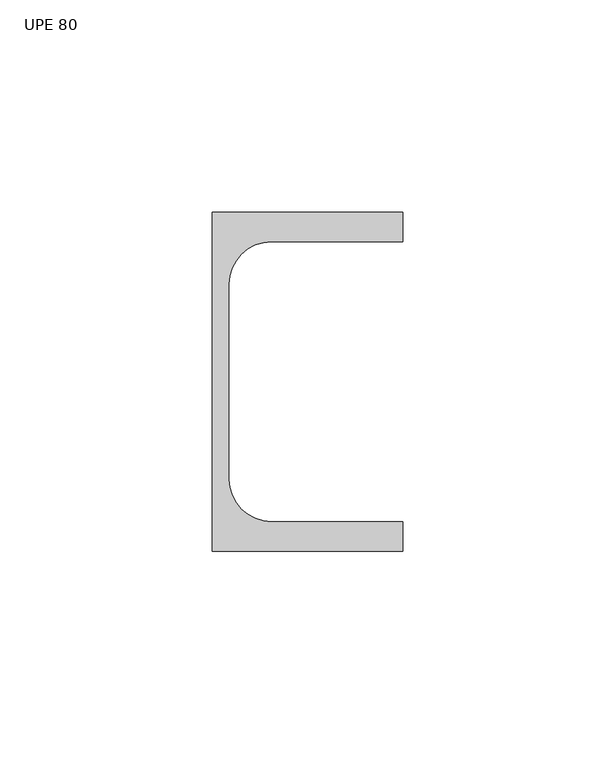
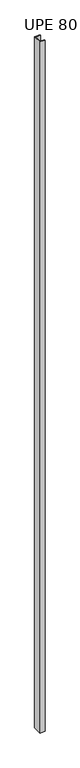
"""IFC4 building model written with IfcOpenShell, lengths in millimetres: column geometry, UPE - Canales de ala paralela - Pilar : UPE 80."""

import ifcopenshell
import ifcopenshell.guid

model = None  # the IFC model being written
_history = None  # IfcOwnerHistory: only IFC2X3 demands one
_inside = {}  # id of a spatial element -> (the spatial element, [elements in it])
_under = {}  # id of a project, library or spatial element -> (it, [spatial elements below it])
_declared = {}  # id of a project -> (the project, [libraries it declares])
_typed = {}  # id of a type object -> (the type object, [elements of that type])
_made_of = {}  # id of a material, layer set ... -> (it, [elements and type objects made of it])


def new_model(schema):
    """Start an empty IFC model of exactly this schema.

    Asked for "IFC4X3", IfcOpenShell would pick the latest addendum, in which some entities
    have other attributes; the version numbers below select the first issue.
    IFC2X3 requires an IfcOwnerHistory on every rooted entity: one is made here for all.
    """
    global model, _history
    if schema == "IFC4X3":
        model = ifcopenshell.file(schema_version=(4, 3, 0, 0))
    else:
        model = ifcopenshell.file(schema=schema)
    _inside.clear()
    _under.clear()
    _declared.clear()
    _typed.clear()
    _made_of.clear()
    _history = None
    if model.schema == "IFC2X3":
        org = make("IfcOrganization", Name="unknown")
        user = make(
            "IfcPersonAndOrganization",
            ThePerson=make("IfcPerson", FamilyName="unknown"),
            TheOrganization=org,
        )
        app = make(
            "IfcApplication",
            ApplicationDeveloper=org,
            Version="unknown",
            ApplicationFullName="unknown",
            ApplicationIdentifier="unknown",
        )
        _history = make(
            "IfcOwnerHistory",
            OwningUser=user,
            OwningApplication=app,
            ChangeAction="ADDED",
            CreationDate=0,
        )
    return model


def make(cls, **values):
    """One entity of the class cls with the attributes given. An attribute that is None is left unset."""
    return model.create_entity(
        cls, **{name: value for name, value in values.items() if value is not None}
    )


def rooted(cls, **values):
    """An entity with a GlobalId (a new one), such as an element, a storey or a relation."""
    return make(cls, GlobalId=ifcopenshell.guid.new(), OwnerHistory=_history, **values)


def si_unit(unit_type, name, prefix=None):
    """IfcSIUnit, for example si_unit("LENGTHUNIT", "METRE", prefix="MILLI")."""
    return make("IfcSIUnit", UnitType=unit_type, Prefix=prefix, Name=name)


def assignment(units):
    """IfcUnitAssignment: the units of a project."""
    return None if units is None else make("IfcUnitAssignment", Units=units)


def point(xyz):
    """IfcCartesianPoint."""
    return None if xyz is None else make("IfcCartesianPoint", Coordinates=xyz)


def direction(xyz):
    """IfcDirection."""
    return None if xyz is None else make("IfcDirection", DirectionRatios=xyz)


def frame(location, z_axis=None, x_axis=None):
    """IfcAxis2Placement3D, a coordinate frame: its origin and axes. An axis left out is left unset."""
    return make(
        "IfcAxis2Placement3D",
        Location=point(location),
        Axis=direction(z_axis),
        RefDirection=direction(x_axis),
    )


def frame_2d(location, x_axis=None):
    """IfcAxis2Placement2D, a coordinate frame in the plane: its origin and x axis."""
    return make(
        "IfcAxis2Placement2D", Location=point(location), RefDirection=direction(x_axis)
    )


def origin():
    """The frame at (0, 0, 0) with its axes left unset."""
    return frame((0.0, 0.0, 0.0))


def origin_with_axes():
    """The frame at (0, 0, 0) with the z axis (0, 0, 1) and the x axis (1, 0, 0) written out."""
    return frame((0.0, 0.0, 0.0), z_axis=(0.0, 0.0, 1.0), x_axis=(1.0, 0.0, 0.0))


def place(relative_to, where):
    """IfcLocalPlacement: puts the frame where relative to a parent placement (None: the world)."""
    return make(
        "IfcLocalPlacement", PlacementRelTo=relative_to, RelativePlacement=where
    )


def context(
    kind, dimensions, precision=None, world=None, true_north=None, identifier=None
):
    """IfcGeometricRepresentationContext, for example the 3D "Model" context."""
    return make(
        "IfcGeometricRepresentationContext",
        ContextIdentifier=identifier,
        ContextType=kind,
        CoordinateSpaceDimension=dimensions,
        Precision=precision,
        WorldCoordinateSystem=world,
        TrueNorth=true_north,
    )


def project(units=None, contexts=None):
    """IfcProject with its units and contexts."""
    return rooted(
        "IfcProject",
        Name="project",
        RepresentationContexts=contexts,
        UnitsInContext=assignment(units),
    )


def spatial(cls, under=None, at=None, **own):
    """A site, building, storey or space (cls), placed at a placement, below another one or the project."""
    s = rooted(cls, ObjectPlacement=at, **own)
    if under is not None:
        _under.setdefault(under.id(), (under, []))[1].append(s)
    return s


def polyline(points):
    """IfcPolyline through the points."""
    return make("IfcPolyline", Points=[point(p) for p in points])


def circle_curve(where, radius):
    """IfcCircle in the frame where."""
    return make("IfcCircle", Position=where, Radius=radius)


def trimmed(basis, trim1, trim2, sense, master):
    """IfcTrimmedCurve: the piece of a basis curve between two trims."""
    return make(
        "IfcTrimmedCurve",
        BasisCurve=basis,
        Trim1=trim1,
        Trim2=trim2,
        SenseAgreement=sense,
        MasterRepresentation=master,
    )


def segment(curve, same_sense, transition):
    """IfcCompositeCurveSegment."""
    return make(
        "IfcCompositeCurveSegment",
        Transition=transition,
        SameSense=same_sense,
        ParentCurve=curve,
    )


def composite_curve(segments, self_intersect=None):
    """IfcCompositeCurve: segments joined end to end."""
    return make("IfcCompositeCurve", Segments=segments, SelfIntersect=self_intersect)


def outline(outer, holes=None, kind="AREA"):
    """IfcArbitraryClosedProfileDef: a profile drawn as a closed curve; with holes, ...WithVoids."""
    if holes is None:
        return make("IfcArbitraryClosedProfileDef", ProfileType=kind, OuterCurve=outer)
    return make(
        "IfcArbitraryProfileDefWithVoids",
        ProfileType=kind,
        OuterCurve=outer,
        InnerCurves=holes,
    )


def extrude(swept, where, along, depth):
    """IfcExtrudedAreaSolid: the profile swept, set in the frame where, extruded along a direction by depth."""
    return make(
        "IfcExtrudedAreaSolid",
        SweptArea=swept,
        Position=where,
        ExtrudedDirection=direction(along),
        Depth=depth,
    )


def shape(context_of_items, identifier, shape_type, items):
    """IfcShapeRepresentation: the items that make up one representation, for example the "Body"."""
    return make(
        "IfcShapeRepresentation",
        ContextOfItems=context_of_items,
        RepresentationIdentifier=identifier,
        RepresentationType=shape_type,
        Items=items,
    )


def source(mapping_origin, context_of_items, identifier, shape_type, items):
    """IfcRepresentationMap: a shape defined once, which mapped items show again and again."""
    return make(
        "IfcRepresentationMap",
        MappingOrigin=mapping_origin,
        MappedRepresentation=shape(context_of_items, identifier, shape_type, items),
    )


def transform(
    local_origin,
    x_axis=None,
    y_axis=None,
    z_axis=None,
    scale=None,
    scale2=None,
    scale3=None,
    uniform=True,
):
    """IfcCartesianTransformationOperator3D, or its non-uniform kind. x_axis, y_axis, z_axis: its Axis1, 2, 3."""
    if uniform:
        return make(
            "IfcCartesianTransformationOperator3D",
            Axis1=direction(x_axis),
            Axis2=direction(y_axis),
            LocalOrigin=point(local_origin),
            Scale=scale,
            Axis3=direction(z_axis),
        )
    return make(
        "IfcCartesianTransformationOperator3DnonUniform",
        Axis1=direction(x_axis),
        Axis2=direction(y_axis),
        LocalOrigin=point(local_origin),
        Scale=scale,
        Axis3=direction(z_axis),
        Scale2=scale2,
        Scale3=scale3,
    )


def mapped(mapping_source, mapping_target):
    """IfcMappedItem: shows the shape of a source again, moved by a transform."""
    return make(
        "IfcMappedItem", MappingSource=mapping_source, MappingTarget=mapping_target
    )


def made_of(thing, what):
    """Note that an element or type object is made of a material, layer set ...; save() writes the relation."""
    if what is not None:
        _made_of.setdefault(what.id(), (what, []))[1].append(thing)
    return thing


def element(
    cls,
    number,
    at=None,
    inside=None,
    cuts=None,
    type_object=None,
    material=None,
    context=None,
    identifier="Body",
    shape_type=None,
    held_by="IfcProductDefinitionShape",
    body=None,
    shapes=None,
    **own,
):
    """One element of the class cls, such as IfcWall. Its Tag is "e" and its number.

    at: its placement. inside: the storey or other place that contains it. cuts: it is an
    opening in that element (IfcRelVoidsElement). A single representation is given by context,
    identifier, shape_type and body (its items); several are given by shapes. held_by: the class
    of the entity that holds the representations. save() writes the other relations.
    """
    e = rooted(cls, Tag="e%d" % number, ObjectPlacement=at, **own)
    if body is not None:
        shapes = [shape(context, identifier, shape_type, body)]
    if shapes is not None:
        e.Representation = make(held_by, Representations=shapes)
    if inside is not None:
        _inside.setdefault(inside.id(), (inside, []))[1].append(e)
    if cuts is not None:
        rooted(
            "IfcRelVoidsElement", RelatingBuildingElement=cuts, RelatedOpeningElement=e
        )
    if type_object is not None:
        _typed.setdefault(type_object.id(), (type_object, []))[1].append(e)
    return made_of(e, material)


def aggregate(whole, parts):
    """IfcRelAggregates: a whole, such as a stair, and the parts it consists of."""
    return rooted("IfcRelAggregates", RelatingObject=whole, RelatedObjects=parts)


def save(model, path):
    """Write the relations noted so far, then the file.

    IfcRelAggregates (storeys below a building ...), IfcRelContainedInSpatialStructure (elements
    in a storey), IfcRelDefinesByType, IfcRelAssociatesMaterial and IfcRelDeclares: one each for
    every whole, place, type object, material and project.
    """
    for whole, parts in _under.values():
        aggregate(whole, parts)
    for where, things in _inside.values():
        rooted(
            "IfcRelContainedInSpatialStructure",
            RelatedElements=things,
            RelatingStructure=where,
        )
    for kind, things in _typed.values():
        rooted("IfcRelDefinesByType", RelatedObjects=things, RelatingType=kind)
    for what, things in _made_of.values():
        rooted("IfcRelAssociatesMaterial", RelatedObjects=things, RelatingMaterial=what)
    for by, libraries in _declared.values():
        rooted("IfcRelDeclares", RelatingContext=by, RelatedDefinitions=libraries)
    model.write(path)


def upe_80_0c7fc3fc(model_context):
    return source(origin(), model_context, "Body", "SweptSolid", [
        extrude(outline(composite_curve([segment(polyline([(-18.2, 40.0), (26.8, 40.0), (26.8, 33.0), (-4.2, 33.0)]), True, "CONTINUOUS"), segment(trimmed(circle_curve(frame_2d((-4.2, 23.0)), 10.0), [point((-4.2, 33.0))], [point((-14.2, 23.0))], True, "CARTESIAN"), True, "CONTINUOUS"), segment(polyline([(-14.2, 23.0), (-14.2, -23.0)]), True, "CONTINUOUS"), segment(trimmed(circle_curve(frame_2d((-4.2, -23.0)), 10.0), [point((-14.2, -23.0))], [point((-4.2, -33.0))], True, "CARTESIAN"), True, "CONTINUOUS"), segment(polyline([(-4.2, -33.0), (26.8, -33.0), (26.8, -40.0), (-18.2, -40.0), (-18.2, 40.0)]), True, "CONTINUOUS")], self_intersect=False)), origin_with_axes(), (0.0, 0.0, 1.0), 6340.0),
    ])


if __name__ == "__main__":
    model = new_model("IFC4")
    model_context = context("Model", 3, world=origin())
    ifc_project = project(units=[si_unit("LENGTHUNIT", "METRE", prefix="MILLI")], contexts=[model_context])
    site = spatial("IfcSite", under=ifc_project)
    building = spatial("IfcBuilding", under=site)
    placement = place(None, origin())
    upe_80_shape = upe_80_0c7fc3fc(model_context)
    element("IfcColumn", 1, ObjectType="UPE - Canales de ala paralela - Pilar : UPE 80", at=placement, inside=building, context=model_context, shape_type="MappedRepresentation", body=[
        mapped(upe_80_shape, transform((0.0, 0.0, 0.0), x_axis=(1.0, 0.0, 0.0), y_axis=(0.0, 1.0, 0.0), z_axis=(0.0, 0.0, 1.0))),
    ])
    save(model, "model.ifc")
